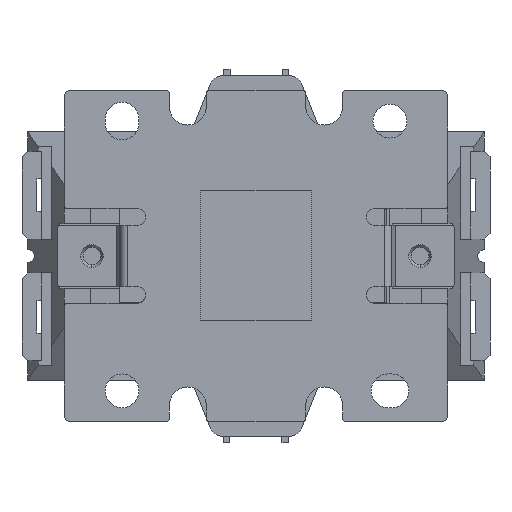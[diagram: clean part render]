
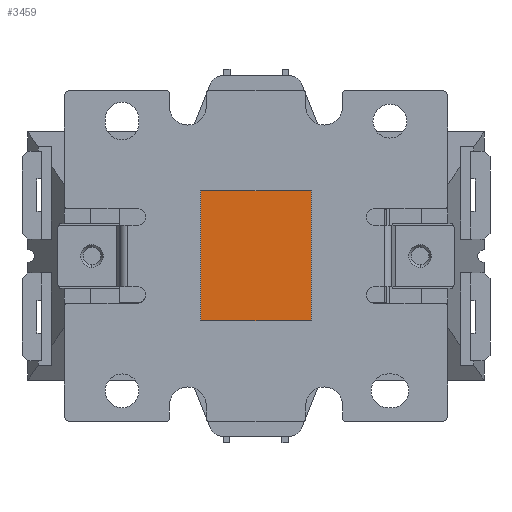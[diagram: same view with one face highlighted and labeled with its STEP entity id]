
A CAD part, left-side view. The second image highlights one B-rep face of the part: STEP entity #3459.
In plain terms, the highlighted planar face has unit normal (-1, 0, 0).
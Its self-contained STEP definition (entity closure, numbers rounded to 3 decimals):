
#3459 = ADVANCED_FACE ( 'NONE', ( #14565 ), #71465, .T. ) ;
#7506 = DIRECTION ( 'NONE',  ( 0., 0., -1. ) ) ;
#9416 = LINE ( 'NONE', #46561, #74504 ) ;
#14565 = FACE_OUTER_BOUND ( 'NONE', #47400, .T. ) ;
#17222 = DIRECTION ( 'NONE',  ( 0., -1., 0. ) ) ;
#18094 = CARTESIAN_POINT ( 'NONE',  ( -23.083, 0.157, -10. ) ) ;
#19665 = CARTESIAN_POINT ( 'NONE',  ( -23.083, 0.157, 10. ) ) ;
#21363 = EDGE_CURVE ( 'NONE', #65195, #75557, #23344, .T. ) ;
#23344 = LINE ( 'NONE', #52033, #84742 ) ;
#25762 = VERTEX_POINT ( 'NONE', #32747 ) ;
#28226 = DIRECTION ( 'NONE',  ( 0., 0., 1. ) ) ;
#31029 = DIRECTION ( 'NONE',  ( 0., 1., 0. ) ) ;
#31528 = ORIENTED_EDGE ( 'NONE', *, *, #66088, .T. ) ;
#31899 = VECTOR ( 'NONE', #37220, 1000. ) ;
#32747 = CARTESIAN_POINT ( 'NONE',  ( -23.083, -16.843, 10. ) ) ;
#32910 = EDGE_CURVE ( 'NONE', #75557, #25762, #35262, .T. ) ;
#35262 = LINE ( 'NONE', #92662, #86234 ) ;
#37220 = DIRECTION ( 'NONE',  ( 0., 0., 1. ) ) ;
#42320 = CARTESIAN_POINT ( 'NONE',  ( -23.083, -16.843, 10. ) ) ;
#43942 = EDGE_CURVE ( 'NONE', #65195, #76784, #79574, .T. ) ;
#45536 = ORIENTED_EDGE ( 'NONE', *, *, #21363, .T. ) ;
#46561 = CARTESIAN_POINT ( 'NONE',  ( -23.083, -8.343, 10. ) ) ;
#47400 = EDGE_LOOP ( 'NONE', ( #55383, #31528, #83472, #45536 ) ) ;
#52033 = CARTESIAN_POINT ( 'NONE',  ( -23.083, -16.843, -10. ) ) ;
#55383 = ORIENTED_EDGE ( 'NONE', *, *, #32910, .T. ) ;
#63924 = DIRECTION ( 'NONE',  ( -1., 0., 0. ) ) ;
#65195 = VERTEX_POINT ( 'NONE', #18094 ) ;
#65437 = CARTESIAN_POINT ( 'NONE',  ( -23.083, 0.157, 10. ) ) ;
#66088 = EDGE_CURVE ( 'NONE', #25762, #76784, #9416, .T. ) ;
#70281 = AXIS2_PLACEMENT_3D ( 'NONE', #42320, #63924, #7506 ) ;
#70646 = CARTESIAN_POINT ( 'NONE',  ( -23.083, -16.843, -10. ) ) ;
#71465 = PLANE ( 'NONE',  #70281 ) ;
#74504 = VECTOR ( 'NONE', #31029, 1000. ) ;
#75557 = VERTEX_POINT ( 'NONE', #70646 ) ;
#76784 = VERTEX_POINT ( 'NONE', #19665 ) ;
#79574 = LINE ( 'NONE', #65437, #31899 ) ;
#83472 = ORIENTED_EDGE ( 'NONE', *, *, #43942, .F. ) ;
#84742 = VECTOR ( 'NONE', #17222, 1000. ) ;
#86234 = VECTOR ( 'NONE', #28226, 1000. ) ;
#92662 = CARTESIAN_POINT ( 'NONE',  ( -23.083, -16.843, 10. ) ) ;
